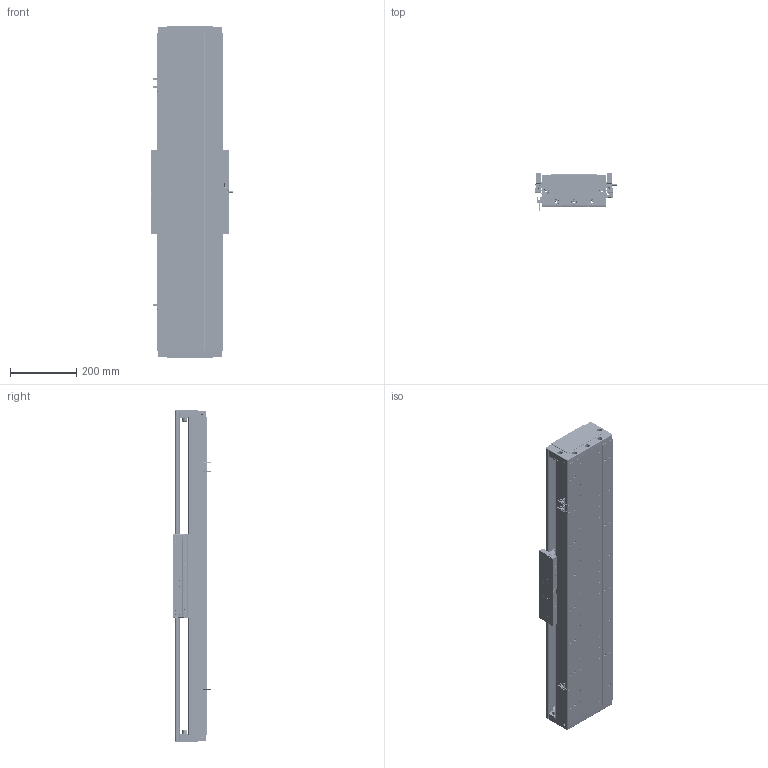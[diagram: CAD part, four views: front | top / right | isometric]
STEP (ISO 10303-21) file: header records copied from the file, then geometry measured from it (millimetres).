
FILE_DESCRIPTION (( 'STEP AP203' ), '1' );
FILE_NAME ('DA-C195-C3-T660-C010-0.2 眻盄萇儂.STEP', '2025-08-15T01:42:36', ( '' ), ( '' ), 'SwSTEP 2.0', 'SolidWorks 2019', '' );
FILE_SCHEMA (( 'CONFIG_CONTROL_DESIGN' ));
Length unit declared in the file: millimetre
Products named in the file (12): 66156-0001-003-00 裔啣; 葩璃 DA95-GT-T-00; DA195-DG-H-00  端盖（压铸镂空版）; CU195-C3賑輸-俋楷; PM-T45ㄗ侂狟ㄘ; IU-CU195-L 菁釱絳寢; LMT黍杅芛; DA-C195-C3-T660-C010-0.2 眻盄萇儂; DA95-HXJ-00 遣喳砎蝶; DA165-GYP-00 光电感应片(默认); IU-CU195-L-00 菁釱(L960); MS200 棠掑喜S315-T240
Assembly tree (20 placements, depth 3):
  DA-C195-C3-T660-C010-0.2 眻盄萇儂
    IU-CU195-L 菁釱絳寢
      IU-CU195-L-00 菁釱(L960)
      葩璃 DA95-GT-T-00  x4
    LMT黍杅芛
    MS200 棠掑喜S315-T240
    PM-T45ㄗ侂狟ㄘ  x3
    DA165-GYP-00 光电感应片(默认)
    DA195-DG-H-00  端盖（压铸镂空版）  x2
    DA95-HXJ-00 遣喳砎蝶  x4
    66156-0001-003-00 裔啣
    CU195-C3賑輸-俋楷
Bounding box: 248 x 115.6 x 1000 mm (x, y, z)
Volume: 7636152.1 mm3; surface area: 2144254.9 mm2
Topology: 78 solids, 118 shells, 5105 faces, 13000 edges, 7891 vertices
Faces by surface type: cylinder 2176, plane 1595, bspline 710, cone 544, torus 44, sphere 36
Entity records: 139373 total; most frequent: CARTESIAN_POINT 42905, ORIENTED_EDGE 20086, DIRECTION 19414, EDGE_CURVE 10043, AXIS2_PLACEMENT_3D 7215, VERTEX_POINT 6321, LINE 4984, VECTOR 4984
